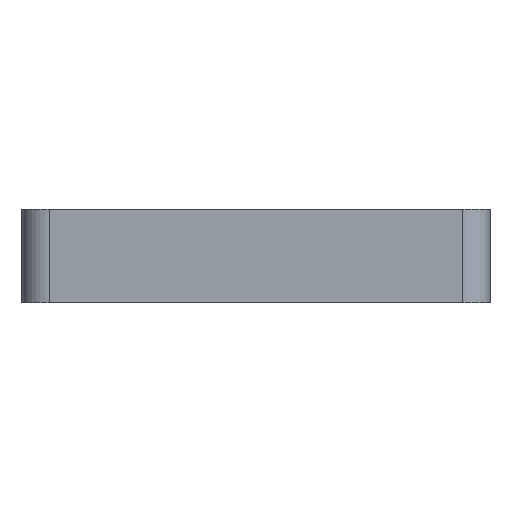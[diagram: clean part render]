
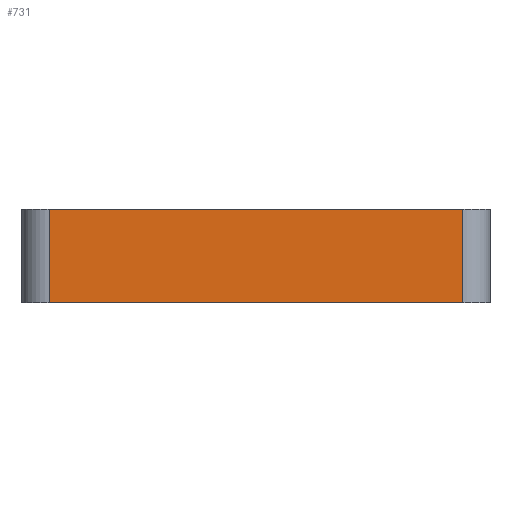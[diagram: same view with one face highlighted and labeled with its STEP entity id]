
A CAD part, left-side view. The second image highlights one B-rep face of the part: STEP entity #731.
In plain terms, the highlighted planar face has unit normal (-1, 0, 0).
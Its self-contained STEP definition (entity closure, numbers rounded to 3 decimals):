
#44 = PLANE('',#45);
#45 = AXIS2_PLACEMENT_3D('',#46,#47,#48);
#46 = CARTESIAN_POINT('',(-4.8,-41.,7.58));
#47 = DIRECTION('',(0.,0.,1.));
#48 = DIRECTION('',(1.,0.,0.));
#100 = PLANE('',#101);
#101 = AXIS2_PLACEMENT_3D('',#102,#103,#104);
#102 = CARTESIAN_POINT('',(-4.8,-41.,6.38));
#103 = DIRECTION('',(0.,0.,1.));
#104 = DIRECTION('',(1.,0.,0.));
#199 = VERTEX_POINT('',#200);
#200 = CARTESIAN_POINT('',(-13.2,-40.65,7.58));
#215 = CYLINDRICAL_SURFACE('',#216,0.35);
#216 = AXIS2_PLACEMENT_3D('',#217,#218,#219);
#217 = CARTESIAN_POINT('',(-12.85,-40.65,6.38));
#218 = DIRECTION('',(-0.,-0.,1.));
#219 = DIRECTION('',(-1.,-0.,-0.));
#227 = EDGE_CURVE('',#199,#228,#230,.T.);
#228 = VERTEX_POINT('',#229);
#229 = CARTESIAN_POINT('',(-13.2,-35.35,7.58));
#230 = SURFACE_CURVE('',#231,(#235,#242),.PCURVE_S1.);
#231 = LINE('',#232,#233);
#232 = CARTESIAN_POINT('',(-13.2,-41.,7.58));
#233 = VECTOR('',#234,1.);
#234 = DIRECTION('',(0.,1.,0.));
#235 = PCURVE('',#44,#236);
#236 = DEFINITIONAL_REPRESENTATION('',(#237),#241);
#237 = LINE('',#238,#239);
#238 = CARTESIAN_POINT('',(-8.4,0.));
#239 = VECTOR('',#240,1.);
#240 = DIRECTION('',(0.,1.));
#241 = ( GEOMETRIC_REPRESENTATION_CONTEXT(2) 
PARAMETRIC_REPRESENTATION_CONTEXT() REPRESENTATION_CONTEXT('2D SPACE',''
  ) );
#242 = PCURVE('',#243,#248);
#243 = PLANE('',#244);
#244 = AXIS2_PLACEMENT_3D('',#245,#246,#247);
#245 = CARTESIAN_POINT('',(-13.2,-41.,6.38));
#246 = DIRECTION('',(-1.,-0.,-0.));
#247 = DIRECTION('',(-0.,-0.,-1.));
#248 = DEFINITIONAL_REPRESENTATION('',(#249),#253);
#249 = LINE('',#250,#251);
#250 = CARTESIAN_POINT('',(-1.2,-0.));
#251 = VECTOR('',#252,1.);
#252 = DIRECTION('',(-0.,-1.));
#253 = ( GEOMETRIC_REPRESENTATION_CONTEXT(2) 
PARAMETRIC_REPRESENTATION_CONTEXT() REPRESENTATION_CONTEXT('2D SPACE',''
  ) );
#276 = CYLINDRICAL_SURFACE('',#277,0.35);
#277 = AXIS2_PLACEMENT_3D('',#278,#279,#280);
#278 = CARTESIAN_POINT('',(-12.85,-35.35,6.38));
#279 = DIRECTION('',(-0.,-0.,1.));
#280 = DIRECTION('',(-1.,-0.,-0.));
#502 = VERTEX_POINT('',#503);
#503 = CARTESIAN_POINT('',(-13.2,-40.65,6.38));
#525 = EDGE_CURVE('',#502,#526,#528,.T.);
#526 = VERTEX_POINT('',#527);
#527 = CARTESIAN_POINT('',(-13.2,-35.35,6.38));
#528 = SURFACE_CURVE('',#529,(#533,#540),.PCURVE_S1.);
#529 = LINE('',#530,#531);
#530 = CARTESIAN_POINT('',(-13.2,-41.,6.38));
#531 = VECTOR('',#532,1.);
#532 = DIRECTION('',(0.,1.,0.));
#533 = PCURVE('',#100,#534);
#534 = DEFINITIONAL_REPRESENTATION('',(#535),#539);
#535 = LINE('',#536,#537);
#536 = CARTESIAN_POINT('',(-8.4,0.));
#537 = VECTOR('',#538,1.);
#538 = DIRECTION('',(0.,1.));
#539 = ( GEOMETRIC_REPRESENTATION_CONTEXT(2) 
PARAMETRIC_REPRESENTATION_CONTEXT() REPRESENTATION_CONTEXT('2D SPACE',''
  ) );
#540 = PCURVE('',#243,#541);
#541 = DEFINITIONAL_REPRESENTATION('',(#542),#546);
#542 = LINE('',#543,#544);
#543 = CARTESIAN_POINT('',(-0.,-0.));
#544 = VECTOR('',#545,1.);
#545 = DIRECTION('',(-0.,-1.));
#546 = ( GEOMETRIC_REPRESENTATION_CONTEXT(2) 
PARAMETRIC_REPRESENTATION_CONTEXT() REPRESENTATION_CONTEXT('2D SPACE',''
  ) );
#684 = EDGE_CURVE('',#502,#199,#685,.T.);
#685 = SURFACE_CURVE('',#686,(#690,#697),.PCURVE_S1.);
#686 = LINE('',#687,#688);
#687 = CARTESIAN_POINT('',(-13.2,-40.65,6.38));
#688 = VECTOR('',#689,1.);
#689 = DIRECTION('',(-0.,-0.,1.));
#690 = PCURVE('',#215,#691);
#691 = DEFINITIONAL_REPRESENTATION('',(#692),#696);
#692 = LINE('',#693,#694);
#693 = CARTESIAN_POINT('',(0.,0.));
#694 = VECTOR('',#695,1.);
#695 = DIRECTION('',(0.,1.));
#696 = ( GEOMETRIC_REPRESENTATION_CONTEXT(2) 
PARAMETRIC_REPRESENTATION_CONTEXT() REPRESENTATION_CONTEXT('2D SPACE',''
  ) );
#697 = PCURVE('',#243,#698);
#698 = DEFINITIONAL_REPRESENTATION('',(#699),#703);
#699 = LINE('',#700,#701);
#700 = CARTESIAN_POINT('',(-0.,-0.35));
#701 = VECTOR('',#702,1.);
#702 = DIRECTION('',(-1.,-0.));
#703 = ( GEOMETRIC_REPRESENTATION_CONTEXT(2) 
PARAMETRIC_REPRESENTATION_CONTEXT() REPRESENTATION_CONTEXT('2D SPACE',''
  ) );
#711 = EDGE_CURVE('',#526,#228,#712,.T.);
#712 = SURFACE_CURVE('',#713,(#717,#724),.PCURVE_S1.);
#713 = LINE('',#714,#715);
#714 = CARTESIAN_POINT('',(-13.2,-35.35,6.38));
#715 = VECTOR('',#716,1.);
#716 = DIRECTION('',(-0.,-0.,1.));
#717 = PCURVE('',#276,#718);
#718 = DEFINITIONAL_REPRESENTATION('',(#719),#723);
#719 = LINE('',#720,#721);
#720 = CARTESIAN_POINT('',(-0.,0.));
#721 = VECTOR('',#722,1.);
#722 = DIRECTION('',(-0.,1.));
#723 = ( GEOMETRIC_REPRESENTATION_CONTEXT(2) 
PARAMETRIC_REPRESENTATION_CONTEXT() REPRESENTATION_CONTEXT('2D SPACE',''
  ) );
#724 = PCURVE('',#243,#725);
#725 = DEFINITIONAL_REPRESENTATION('',(#726),#730);
#726 = LINE('',#727,#728);
#727 = CARTESIAN_POINT('',(-0.,-5.65));
#728 = VECTOR('',#729,1.);
#729 = DIRECTION('',(-1.,-0.));
#730 = ( GEOMETRIC_REPRESENTATION_CONTEXT(2) 
PARAMETRIC_REPRESENTATION_CONTEXT() REPRESENTATION_CONTEXT('2D SPACE',''
  ) );
#731 = ADVANCED_FACE('',(#732),#243,.T.);
#732 = FACE_BOUND('',#733,.F.);
#733 = EDGE_LOOP('',(#734,#735,#736,#737));
#734 = ORIENTED_EDGE('',*,*,#227,.F.);
#735 = ORIENTED_EDGE('',*,*,#684,.F.);
#736 = ORIENTED_EDGE('',*,*,#525,.T.);
#737 = ORIENTED_EDGE('',*,*,#711,.T.);
